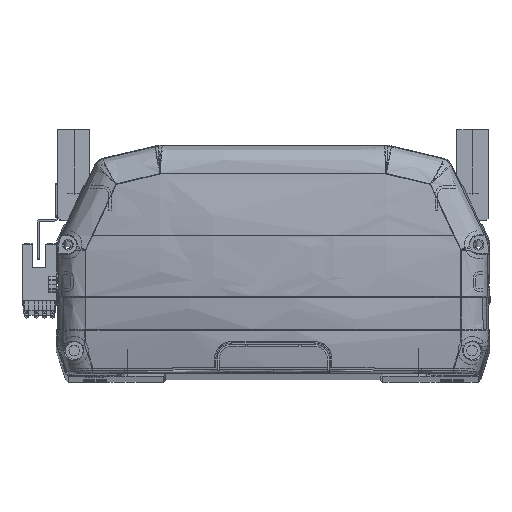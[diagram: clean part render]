
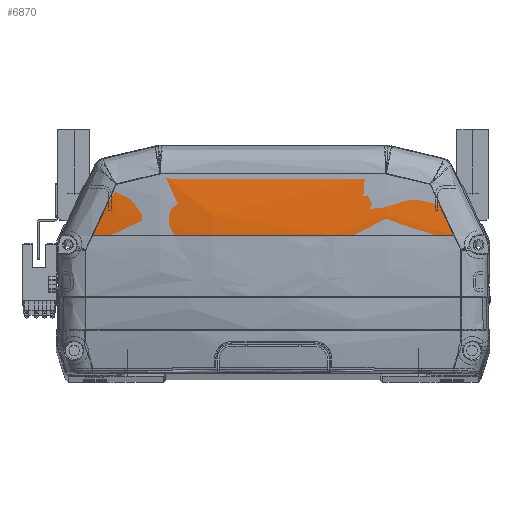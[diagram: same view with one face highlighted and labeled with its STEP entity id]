
A CAD part, top view. The second image highlights one B-rep face of the part: STEP entity #6870.
In plain terms, the highlighted toroidal (fillet/blend) face has major radius 312.5 mm and minor radius 572.4 mm.
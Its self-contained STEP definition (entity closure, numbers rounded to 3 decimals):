
#310 = CIRCLE ( 'NONE', #26198, 572.4 ) ;
#832 = B_SPLINE_CURVE_WITH_KNOTS ( 'NONE', 3,
 ( #25256, #25390, #18669, #12397 ),
 .UNSPECIFIED., .F., .F.,
 ( 4, 4 ),
 ( 0., 0.022 ),
 .UNSPECIFIED. ) ;
#945 = VERTEX_POINT ( 'NONE', #20409 ) ;
#1126 = CARTESIAN_POINT ( 'NONE',  ( 55.929, 76.66, -3.711 ) ) ;
#3768 = CARTESIAN_POINT ( 'NONE',  ( 71.027, 55.096, -4.524 ) ) ;
#4483 = B_SPLINE_CURVE_WITH_KNOTS ( 'NONE', 3,
 ( #28324, #41168, #9105, #18619, #18478, #28056 ),
 .UNSPECIFIED., .F., .F.,
 ( 4, 2, 4 ),
 ( 0., 0.044, 0.089 ),
 .UNSPECIFIED. ) ;
#5093 = EDGE_CURVE ( 'NONE', #25776, #37301, #24444, .T. ) ;
#5938 = ORIENTED_EDGE ( 'NONE', *, *, #25453, .T. ) ;
#6525 = EDGE_CURVE ( 'NONE', #945, #7204, #31265, .T. ) ;
#6870 = ADVANCED_FACE ( 'NONE', ( #25179 ), #30440, .T. ) ;
#7042 = EDGE_CURVE ( 'NONE', #18555, #25776, #4483, .T. ) ;
#7204 = VERTEX_POINT ( 'NONE', #29895 ) ;
#8300 = CARTESIAN_POINT ( 'NONE',  ( -67.917, 61.816, -4.208 ) ) ;
#9105 = CARTESIAN_POINT ( 'NONE',  ( -14.788, 79.361, -1.235 ) ) ;
#9264 = CARTESIAN_POINT ( 'NONE',  ( 0., 55.096, -572.5 ) ) ;
#11561 = CARTESIAN_POINT ( 'NONE',  ( -71.027, 55.096, -4.524 ) ) ;
#12397 = CARTESIAN_POINT ( 'NONE',  ( 71.027, 55.096, -4.524 ) ) ;
#12654 = DIRECTION ( 'NONE',  ( 0., 0., 1. ) ) ;
#13951 = DIRECTION ( 'NONE',  ( 1., 0., 0. ) ) ;
#14383 = CARTESIAN_POINT ( 'NONE',  ( 50.132, 78.049, -3.29 ) ) ;
#14850 = CARTESIAN_POINT ( 'NONE',  ( -63.264, 71.911, -4.135 ) ) ;
#17949 = ORIENTED_EDGE ( 'NONE', *, *, #35732, .F. ) ;
#18478 = CARTESIAN_POINT ( 'NONE',  ( 29.579, 79.389, -1.814 ) ) ;
#18555 = VERTEX_POINT ( 'NONE', #35552 ) ;
#18619 = CARTESIAN_POINT ( 'NONE',  ( 14.805, 79.361, -1.235 ) ) ;
#18669 = CARTESIAN_POINT ( 'NONE',  ( 67.917, 61.809, -4.135 ) ) ;
#20409 = CARTESIAN_POINT ( 'NONE',  ( -71.027, 55.096, -4.524 ) ) ;
#21454 = EDGE_LOOP ( 'NONE', ( #25582, #5938, #27371, #30705, #29103, #17949 ) ) ;
#23529 = DIRECTION ( 'NONE',  ( 0., 0., -1. ) ) ;
#24444 = B_SPLINE_CURVE_WITH_KNOTS ( 'NONE', 3,
 ( #34060, #14383, #1126, #36741 ),
 .UNSPECIFIED., .F., .F.,
 ( 4, 4 ),
 ( 0., 0.018 ),
 .UNSPECIFIED. ) ;
#25179 = FACE_OUTER_BOUND ( 'NONE', #21454, .T. ) ;
#25256 = CARTESIAN_POINT ( 'NONE',  ( 61.718, 75.278, -4.232 ) ) ;
#25390 = CARTESIAN_POINT ( 'NONE',  ( 64.811, 68.545, -4.037 ) ) ;
#25453 = EDGE_CURVE ( 'NONE', #945, #36665, #310, .T. ) ;
#25582 = ORIENTED_EDGE ( 'NONE', *, *, #6525, .F. ) ;
#25776 = VERTEX_POINT ( 'NONE', #37130 ) ;
#26198 = AXIS2_PLACEMENT_3D ( 'NONE', #9264, #38887, #12654 ) ;
#26800 = CARTESIAN_POINT ( 'NONE',  ( -55.929, 76.661, -3.711 ) ) ;
#26940 = CARTESIAN_POINT ( 'NONE',  ( -44.331, 79.443, -2.97 ) ) ;
#27371 = ORIENTED_EDGE ( 'NONE', *, *, #35887, .F. ) ;
#28056 = CARTESIAN_POINT ( 'NONE',  ( 44.331, 79.443, -2.97 ) ) ;
#28324 = CARTESIAN_POINT ( 'NONE',  ( -44.331, 79.443, -2.97 ) ) ;
#29103 = ORIENTED_EDGE ( 'NONE', *, *, #7042, .F. ) ;
#29276 = AXIS2_PLACEMENT_3D ( 'NONE', #33220, #13951, #23529 ) ;
#29895 = CARTESIAN_POINT ( 'NONE',  ( -61.718, 75.278, -4.232 ) ) ;
#29959 = CARTESIAN_POINT ( 'NONE',  ( -50.132, 78.049, -3.29 ) ) ;
#30440 = TOROIDAL_SURFACE ( 'NONE', #29276, -312.5, 572.4 ) ;
#30705 = ORIENTED_EDGE ( 'NONE', *, *, #5093, .F. ) ;
#31108 = CARTESIAN_POINT ( 'NONE',  ( -64.813, 68.545, -4.11 ) ) ;
#31265 = B_SPLINE_CURVE_WITH_KNOTS ( 'NONE', 3,
 ( #11561, #38200, #8300, #31108, #14850, #34379 ),
 .UNSPECIFIED., .F., .F.,
 ( 4, 2, 4 ),
 ( 0.006, 0.017, 0.029 ),
 .UNSPECIFIED. ) ;
#33220 = CARTESIAN_POINT ( 'NONE',  ( 0., 55.096, -260. ) ) ;
#33256 = CARTESIAN_POINT ( 'NONE',  ( -61.718, 75.278, -4.232 ) ) ;
#34060 = CARTESIAN_POINT ( 'NONE',  ( 44.331, 79.443, -2.97 ) ) ;
#34379 = CARTESIAN_POINT ( 'NONE',  ( -61.718, 75.278, -4.232 ) ) ;
#35179 = CARTESIAN_POINT ( 'NONE',  ( 61.718, 75.278, -4.232 ) ) ;
#35552 = CARTESIAN_POINT ( 'NONE',  ( -44.331, 79.443, -2.97 ) ) ;
#35732 = EDGE_CURVE ( 'NONE', #7204, #18555, #35750, .T. ) ;
#35750 = B_SPLINE_CURVE_WITH_KNOTS ( 'NONE', 3,
 ( #33256, #26800, #29959, #26940 ),
 .UNSPECIFIED., .F., .F.,
 ( 4, 4 ),
 ( 0., 0.018 ),
 .UNSPECIFIED. ) ;
#35887 = EDGE_CURVE ( 'NONE', #37301, #36665, #832, .T. ) ;
#36665 = VERTEX_POINT ( 'NONE', #3768 ) ;
#36741 = CARTESIAN_POINT ( 'NONE',  ( 61.718, 75.278, -4.232 ) ) ;
#37130 = CARTESIAN_POINT ( 'NONE',  ( 44.331, 79.443, -2.97 ) ) ;
#37301 = VERTEX_POINT ( 'NONE', #35179 ) ;
#38200 = CARTESIAN_POINT ( 'NONE',  ( -69.472, 58.454, -4.329 ) ) ;
#38887 = DIRECTION ( 'NONE',  ( 0., 1., 0. ) ) ;
#41168 = CARTESIAN_POINT ( 'NONE',  ( -29.579, 79.39, -1.814 ) ) ;
